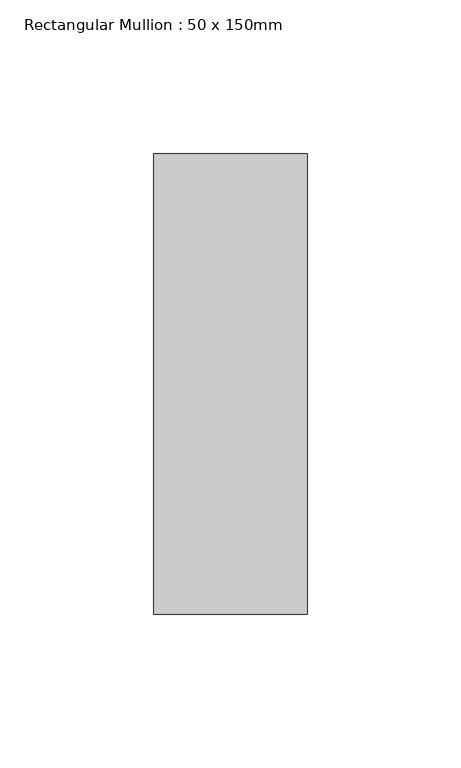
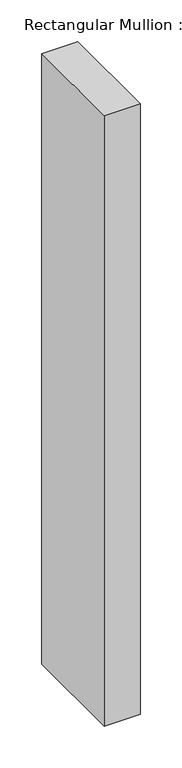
"""IFC4 building model written with IfcOpenShell, lengths in millimetres: member geometry, Rectangular Mullion : 50 x 150mm."""

import ifcopenshell
import ifcopenshell.guid

model = None  # the IFC model being written
_history = None  # IfcOwnerHistory: only IFC2X3 demands one
_inside = {}  # id of a spatial element -> (the spatial element, [elements in it])
_under = {}  # id of a project, library or spatial element -> (it, [spatial elements below it])
_declared = {}  # id of a project -> (the project, [libraries it declares])
_typed = {}  # id of a type object -> (the type object, [elements of that type])
_made_of = {}  # id of a material, layer set ... -> (it, [elements and type objects made of it])


def new_model(schema):
    """Start an empty IFC model of exactly this schema.

    Asked for "IFC4X3", IfcOpenShell would pick the latest addendum, in which some entities
    have other attributes; the version numbers below select the first issue.
    IFC2X3 requires an IfcOwnerHistory on every rooted entity: one is made here for all.
    """
    global model, _history
    if schema == "IFC4X3":
        model = ifcopenshell.file(schema_version=(4, 3, 0, 0))
    else:
        model = ifcopenshell.file(schema=schema)
    _inside.clear()
    _under.clear()
    _declared.clear()
    _typed.clear()
    _made_of.clear()
    _history = None
    if model.schema == "IFC2X3":
        org = make("IfcOrganization", Name="unknown")
        user = make(
            "IfcPersonAndOrganization",
            ThePerson=make("IfcPerson", FamilyName="unknown"),
            TheOrganization=org,
        )
        app = make(
            "IfcApplication",
            ApplicationDeveloper=org,
            Version="unknown",
            ApplicationFullName="unknown",
            ApplicationIdentifier="unknown",
        )
        _history = make(
            "IfcOwnerHistory",
            OwningUser=user,
            OwningApplication=app,
            ChangeAction="ADDED",
            CreationDate=0,
        )
    return model


def make(cls, **values):
    """One entity of the class cls with the attributes given. An attribute that is None is left unset."""
    return model.create_entity(
        cls, **{name: value for name, value in values.items() if value is not None}
    )


def rooted(cls, **values):
    """An entity with a GlobalId (a new one), such as an element, a storey or a relation."""
    return make(cls, GlobalId=ifcopenshell.guid.new(), OwnerHistory=_history, **values)


def si_unit(unit_type, name, prefix=None):
    """IfcSIUnit, for example si_unit("LENGTHUNIT", "METRE", prefix="MILLI")."""
    return make("IfcSIUnit", UnitType=unit_type, Prefix=prefix, Name=name)


def assignment(units):
    """IfcUnitAssignment: the units of a project."""
    return None if units is None else make("IfcUnitAssignment", Units=units)


def point(xyz):
    """IfcCartesianPoint."""
    return None if xyz is None else make("IfcCartesianPoint", Coordinates=xyz)


def direction(xyz):
    """IfcDirection."""
    return None if xyz is None else make("IfcDirection", DirectionRatios=xyz)


def frame(location, z_axis=None, x_axis=None):
    """IfcAxis2Placement3D, a coordinate frame: its origin and axes. An axis left out is left unset."""
    return make(
        "IfcAxis2Placement3D",
        Location=point(location),
        Axis=direction(z_axis),
        RefDirection=direction(x_axis),
    )


def origin():
    """The frame at (0, 0, 0) with its axes left unset."""
    return frame((0.0, 0.0, 0.0))


def place(relative_to, where):
    """IfcLocalPlacement: puts the frame where relative to a parent placement (None: the world)."""
    return make(
        "IfcLocalPlacement", PlacementRelTo=relative_to, RelativePlacement=where
    )


def context(
    kind, dimensions, precision=None, world=None, true_north=None, identifier=None
):
    """IfcGeometricRepresentationContext, for example the 3D "Model" context."""
    return make(
        "IfcGeometricRepresentationContext",
        ContextIdentifier=identifier,
        ContextType=kind,
        CoordinateSpaceDimension=dimensions,
        Precision=precision,
        WorldCoordinateSystem=world,
        TrueNorth=true_north,
    )


def project(units=None, contexts=None):
    """IfcProject with its units and contexts."""
    return rooted(
        "IfcProject",
        Name="project",
        RepresentationContexts=contexts,
        UnitsInContext=assignment(units),
    )


def spatial(cls, under=None, at=None, **own):
    """A site, building, storey or space (cls), placed at a placement, below another one or the project."""
    s = rooted(cls, ObjectPlacement=at, **own)
    if under is not None:
        _under.setdefault(under.id(), (under, []))[1].append(s)
    return s


def polyline(points):
    """IfcPolyline through the points."""
    return make("IfcPolyline", Points=[point(p) for p in points])


def outline(outer, holes=None, kind="AREA"):
    """IfcArbitraryClosedProfileDef: a profile drawn as a closed curve; with holes, ...WithVoids."""
    if holes is None:
        return make("IfcArbitraryClosedProfileDef", ProfileType=kind, OuterCurve=outer)
    return make(
        "IfcArbitraryProfileDefWithVoids",
        ProfileType=kind,
        OuterCurve=outer,
        InnerCurves=holes,
    )


def extrude(swept, where, along, depth):
    """IfcExtrudedAreaSolid: the profile swept, set in the frame where, extruded along a direction by depth."""
    return make(
        "IfcExtrudedAreaSolid",
        SweptArea=swept,
        Position=where,
        ExtrudedDirection=direction(along),
        Depth=depth,
    )


def shape(context_of_items, identifier, shape_type, items):
    """IfcShapeRepresentation: the items that make up one representation, for example the "Body"."""
    return make(
        "IfcShapeRepresentation",
        ContextOfItems=context_of_items,
        RepresentationIdentifier=identifier,
        RepresentationType=shape_type,
        Items=items,
    )


def source(mapping_origin, context_of_items, identifier, shape_type, items):
    """IfcRepresentationMap: a shape defined once, which mapped items show again and again."""
    return make(
        "IfcRepresentationMap",
        MappingOrigin=mapping_origin,
        MappedRepresentation=shape(context_of_items, identifier, shape_type, items),
    )


def transform(
    local_origin,
    x_axis=None,
    y_axis=None,
    z_axis=None,
    scale=None,
    scale2=None,
    scale3=None,
    uniform=True,
):
    """IfcCartesianTransformationOperator3D, or its non-uniform kind. x_axis, y_axis, z_axis: its Axis1, 2, 3."""
    if uniform:
        return make(
            "IfcCartesianTransformationOperator3D",
            Axis1=direction(x_axis),
            Axis2=direction(y_axis),
            LocalOrigin=point(local_origin),
            Scale=scale,
            Axis3=direction(z_axis),
        )
    return make(
        "IfcCartesianTransformationOperator3DnonUniform",
        Axis1=direction(x_axis),
        Axis2=direction(y_axis),
        LocalOrigin=point(local_origin),
        Scale=scale,
        Axis3=direction(z_axis),
        Scale2=scale2,
        Scale3=scale3,
    )


def mapped(mapping_source, mapping_target):
    """IfcMappedItem: shows the shape of a source again, moved by a transform."""
    return make(
        "IfcMappedItem", MappingSource=mapping_source, MappingTarget=mapping_target
    )


def made_of(thing, what):
    """Note that an element or type object is made of a material, layer set ...; save() writes the relation."""
    if what is not None:
        _made_of.setdefault(what.id(), (what, []))[1].append(thing)
    return thing


def element(
    cls,
    number,
    at=None,
    inside=None,
    cuts=None,
    type_object=None,
    material=None,
    context=None,
    identifier="Body",
    shape_type=None,
    held_by="IfcProductDefinitionShape",
    body=None,
    shapes=None,
    **own,
):
    """One element of the class cls, such as IfcWall. Its Tag is "e" and its number.

    at: its placement. inside: the storey or other place that contains it. cuts: it is an
    opening in that element (IfcRelVoidsElement). A single representation is given by context,
    identifier, shape_type and body (its items); several are given by shapes. held_by: the class
    of the entity that holds the representations. save() writes the other relations.
    """
    e = rooted(cls, Tag="e%d" % number, ObjectPlacement=at, **own)
    if body is not None:
        shapes = [shape(context, identifier, shape_type, body)]
    if shapes is not None:
        e.Representation = make(held_by, Representations=shapes)
    if inside is not None:
        _inside.setdefault(inside.id(), (inside, []))[1].append(e)
    if cuts is not None:
        rooted(
            "IfcRelVoidsElement", RelatingBuildingElement=cuts, RelatedOpeningElement=e
        )
    if type_object is not None:
        _typed.setdefault(type_object.id(), (type_object, []))[1].append(e)
    return made_of(e, material)


def aggregate(whole, parts):
    """IfcRelAggregates: a whole, such as a stair, and the parts it consists of."""
    return rooted("IfcRelAggregates", RelatingObject=whole, RelatedObjects=parts)


def save(model, path):
    """Write the relations noted so far, then the file.

    IfcRelAggregates (storeys below a building ...), IfcRelContainedInSpatialStructure (elements
    in a storey), IfcRelDefinesByType, IfcRelAssociatesMaterial and IfcRelDeclares: one each for
    every whole, place, type object, material and project.
    """
    for whole, parts in _under.values():
        aggregate(whole, parts)
    for where, things in _inside.values():
        rooted(
            "IfcRelContainedInSpatialStructure",
            RelatedElements=things,
            RelatingStructure=where,
        )
    for kind, things in _typed.values():
        rooted("IfcRelDefinesByType", RelatedObjects=things, RelatingType=kind)
    for what, things in _made_of.values():
        rooted("IfcRelAssociatesMaterial", RelatedObjects=things, RelatingMaterial=what)
    for by, libraries in _declared.values():
        rooted("IfcRelDeclares", RelatingContext=by, RelatedDefinitions=libraries)
    model.write(path)


def rectangular_mullion_50_x_150mm_94d7f4e7(model_context):
    return source(origin(), model_context, "Body", "SweptSolid", [
        extrude(outline(polyline([(0.0, 75.0), (0.0, -75.0), (-50.0, -75.0), (-50.0, 75.0), (0.0, 75.0)])), frame((0.0, 0.0, -894.9999984), z_axis=(0.0, 0.0, 1.0), x_axis=(1.0, 0.0, 0.0)), (0.0, 0.0, 1.0), 894.9999984),
    ])


if __name__ == "__main__":
    model = new_model("IFC4")
    model_context = context("Model", 3, world=origin())
    ifc_project = project(units=[si_unit("LENGTHUNIT", "METRE", prefix="MILLI")], contexts=[model_context])
    site = spatial("IfcSite", under=ifc_project)
    building = spatial("IfcBuilding", under=site)
    placement = place(None, origin())
    rectangular_mullion_50_x_150mm_shape = rectangular_mullion_50_x_150mm_94d7f4e7(model_context)
    element("IfcMember", 1, ObjectType="Rectangular Mullion : 50 x 150mm", at=placement, inside=building, context=model_context, shape_type="MappedRepresentation", body=[
        mapped(rectangular_mullion_50_x_150mm_shape, transform((0.0, 0.0, 0.0), x_axis=(1.0, 0.0, 0.0), y_axis=(0.0, 1.0, 0.0), z_axis=(0.0, 0.0, 1.0))),
    ])
    save(model, "model.ifc")
